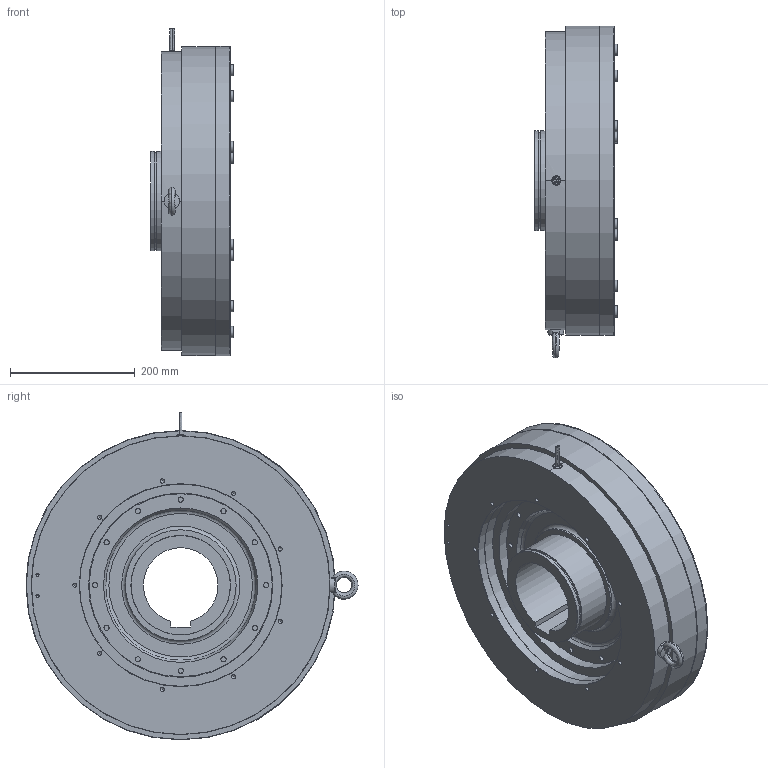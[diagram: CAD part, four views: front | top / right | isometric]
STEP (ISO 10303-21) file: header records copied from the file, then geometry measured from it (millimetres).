
FILE_DESCRIPTION(/* description */ (''),/* implementation_level */ '2;1');
FILE_NAME(/* name */ 'X:\INVENTOR\DISEGNI\08_Freni_Friz_Elettmag_Monodisco\08_26 EMSL_DF\EMSL_DF STEP\08_26_500_21 EMSL500_DF-BM@STEP.stp',/* time_stamp */ '2018-04-24T08:32:16+02:00',/* author */ ('stefano'),/* organization */ (''),/* preprocessor_version */ 'ST-DEVELOPER v17',/* originating_system */ 'Autodesk Inventor 2018',/* authorisation */ '');
FILE_SCHEMA (('AUTOMOTIVE_DESIGN { 1 0 10303 214 3 1 1 }'));
Length unit declared in the file: millimetre
Products named in the file (1): 08_26_500_21 EMSL500_DF-BM_Substitute_1
Bounding box: 133 x 533.3 x 526.52 mm (x, y, z)
Volume: 13964967.3 mm3; surface area: 1500963.5 mm2
Topology: 3 solids, 3 shells, 623 faces, 1755 edges, 1202 vertices
Faces by surface type: cylinder 325, plane 202, cone 73, torus 16, bspline 7
Full cylindrical faces by diameter (mm): 4.917 x2, 5 x16, 6.647 x9, 8.376 x12, 12.1 x8, 15 x1, 16 x12, 18 x16, 20 x16, 155 x1, 160 x3, 178 x1, 250 x1, 294 x1, 296 x1, 302 x1, 315 x1, 324 x1, 325 x1, 325.3 x1, 326.1 x1, 368 x1, 458 x1, 480.4 x1, 496 x1, 497 x2
Entity records: 22248 total; most frequent: CARTESIAN_POINT 4508, DIRECTION 3923, ORIENTED_EDGE 3468, EDGE_CURVE 1734, AXIS2_PLACEMENT_3D 1680, VERTEX_POINT 1202, CIRCLE 1045, EDGE_LOOP 854
